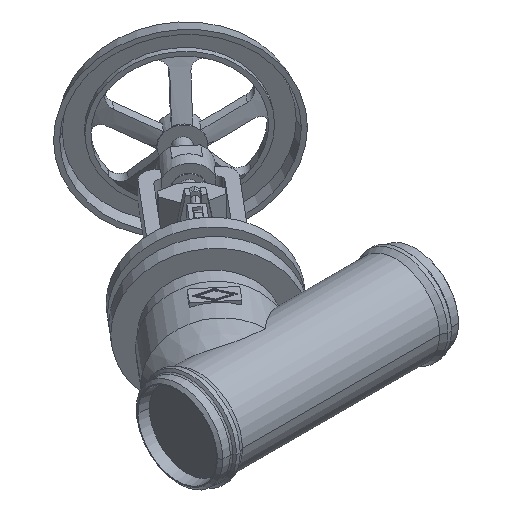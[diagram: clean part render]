
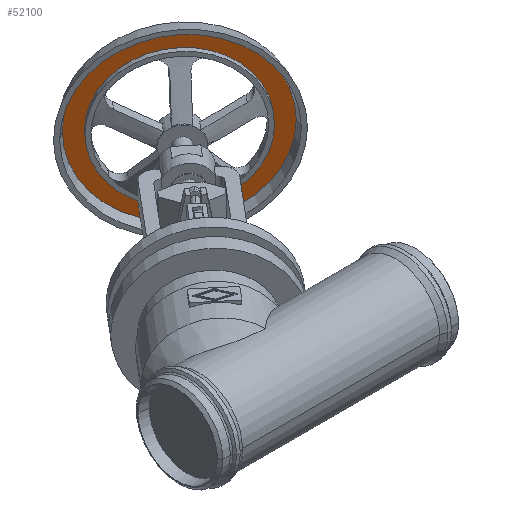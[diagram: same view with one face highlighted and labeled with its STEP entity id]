
A CAD part, isometric view. The second image highlights one B-rep face of the part: STEP entity #52100.
In plain terms, the highlighted planar face has unit normal (-0.643, -0.766, 0).
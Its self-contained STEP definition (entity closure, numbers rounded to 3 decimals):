
#51550=CARTESIAN_POINT('',(554.582,356.546,
0.));
#51560=VERTEX_POINT('',#51550);
#51640=CARTESIAN_POINT('',(342.851,534.21,
0.));
#51650=VERTEX_POINT('',#51640);
#51680=CARTESIAN_POINT('',(448.717,445.378,0.));
#51690=DIRECTION('',(0.643,0.766,
0.));
#51700=DIRECTION('',(-0.766,0.643,
0.));
#51710=AXIS2_PLACEMENT_3D('',#51680,#51690,#51700);
#51720=CIRCLE('',#51710,138.198);
#51730=EDGE_CURVE('',#51560,#51650,#51720,.T.);
#51850=CARTESIAN_POINT('',(352.885,525.79,
0.));
#51860=DIRECTION('',(-0.643,-0.766,0.));
#51870=DIRECTION('',(0.766,-0.643,
0.));
#51880=AXIS2_PLACEMENT_3D('',#51850,#51860,#51870);
#51890=PLANE('',#51880);
#51900=EDGE_CURVE('',#51650,#51560,#51720,.T.);
#51910=ORIENTED_EDGE('',*,*,#51900,.F.);
#51920=ORIENTED_EDGE('',*,*,#51730,.F.);
#51930=EDGE_LOOP('',(#51920,#51910));
#51940=FACE_OUTER_BOUND('',#51930,.T.);
#51950=CARTESIAN_POINT('',(448.717,445.378,0.));
#51960=DIRECTION('',(0.643,0.766,
0.));
#51970=DIRECTION('',(-0.766,0.643,
0.));
#51980=AXIS2_PLACEMENT_3D('',#51950,#51960,#51970);
#51990=CIRCLE('',#51980,112.);
#52000=CARTESIAN_POINT('',(362.92,517.37,
0.));
#52010=VERTEX_POINT('',#52000);
#52020=CARTESIAN_POINT('',(534.514,373.386,
0.));
#52030=VERTEX_POINT('',#52020);
#52040=EDGE_CURVE('',#52010,#52030,#51990,.T.);
#52050=ORIENTED_EDGE('',*,*,#52040,.T.);
#52060=EDGE_CURVE('',#52030,#52010,#51990,.T.);
#52070=ORIENTED_EDGE('',*,*,#52060,.T.);
#52080=EDGE_LOOP('',(#52070,#52050));
#52090=FACE_BOUND('',#52080,.T.);
#52100=ADVANCED_FACE('',(#51940,#52090),#51890,.T.);
